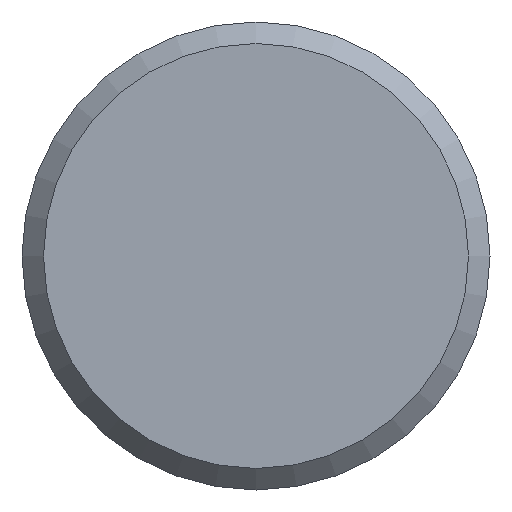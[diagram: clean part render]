
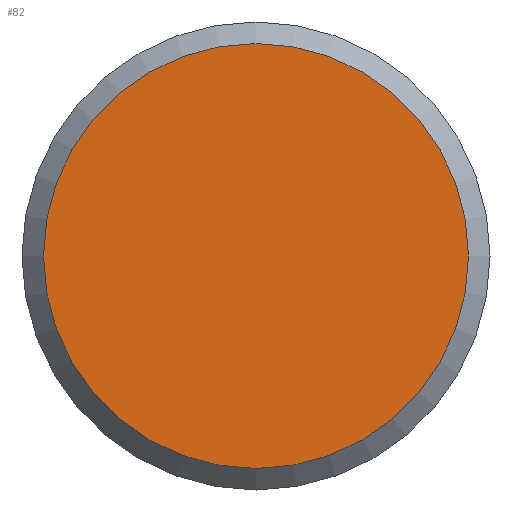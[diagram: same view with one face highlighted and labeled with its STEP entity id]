
A CAD part, front view. The second image highlights one B-rep face of the part: STEP entity #82.
In plain terms, the highlighted planar face has unit normal (0, -1, 0).
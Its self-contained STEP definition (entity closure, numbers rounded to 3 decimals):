
#82 = ADVANCED_FACE( '', ( #113 ), #114, .F. );
#113 = FACE_OUTER_BOUND( '', #157, .T. );
#114 = PLANE( '', #158 );
#157 = EDGE_LOOP( '', ( #226 ) );
#158 = AXIS2_PLACEMENT_3D( '', #227, #228, #229 );
#226 = ORIENTED_EDGE( '', *, *, #329, .T. );
#227 = CARTESIAN_POINT( '', ( 9.08, 0., 0. ) );
#228 = DIRECTION( '', ( 0., 1., 0. ) );
#229 = DIRECTION( '', ( 0., 0., 1. ) );
#329 = EDGE_CURVE( '', #381, #381, #382, .T. );
#381 = VERTEX_POINT( '', #451 );
#382 = CIRCLE( '', #452, 9.08 );
#451 = CARTESIAN_POINT( '', ( 0., 0., -9.08 ) );
#452 = AXIS2_PLACEMENT_3D( '', #517, #518, #519 );
#517 = CARTESIAN_POINT( '', ( 0., 0., 0. ) );
#518 = DIRECTION( '', ( 0., -1., 0. ) );
#519 = DIRECTION( '', ( 0., 0., -1. ) );
